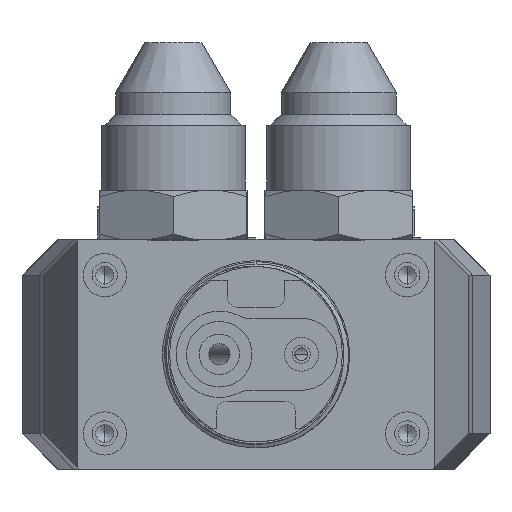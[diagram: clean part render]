
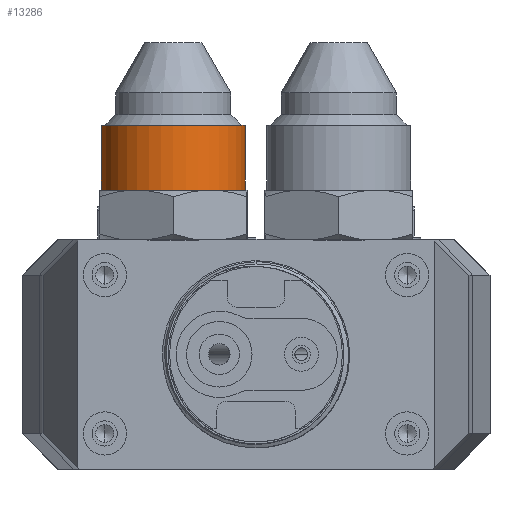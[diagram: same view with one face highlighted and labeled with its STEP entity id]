
A CAD part, front view. The second image highlights one B-rep face of the part: STEP entity #13286.
In plain terms, the highlighted cylindrical face has radius 10 mm (diameter 20 mm), a partial arc.
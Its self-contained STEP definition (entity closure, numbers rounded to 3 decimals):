
#664 = ORIENTED_EDGE ( 'NONE', *, *, #29157, .F. ) ;
#4391 = CARTESIAN_POINT ( 'NONE',  ( -68.019, -126.235, 1021.303 ) ) ;
#4725 = CARTESIAN_POINT ( 'NONE',  ( -68.019, -126.235, 1030.303 ) ) ;
#6978 = AXIS2_PLACEMENT_3D ( 'NONE', #14234, #43159, #32830 ) ;
#7019 = VERTEX_POINT ( 'NONE', #4725 ) ;
#9444 = ORIENTED_EDGE ( 'NONE', *, *, #38469, .T. ) ;
#9517 = CARTESIAN_POINT ( 'NONE',  ( -68.019, -126.235, 1052.575 ) ) ;
#10414 = DIRECTION ( 'NONE',  ( 0., 0., 1. ) ) ;
#12812 = ORIENTED_EDGE ( 'NONE', *, *, #30952, .T. ) ;
#13286 = ADVANCED_FACE ( 'NONE', ( #29681 ), #52866, .T. ) ;
#14234 = CARTESIAN_POINT ( 'NONE',  ( -58.019, -126.235, 1052.575 ) ) ;
#14649 = VERTEX_POINT ( 'NONE', #21840 ) ;
#15387 = AXIS2_PLACEMENT_3D ( 'NONE', #29210, #38994, #20393 ) ;
#15587 = VECTOR ( 'NONE', #10414, 1000. ) ;
#20393 = DIRECTION ( 'NONE',  ( 1., 0., 0. ) ) ;
#21840 = CARTESIAN_POINT ( 'NONE',  ( -48.019, -126.235, 1021.303 ) ) ;
#24142 = CIRCLE ( 'NONE', #15387, 10. ) ;
#28293 = CIRCLE ( 'NONE', #46821, 10. ) ;
#29157 = EDGE_CURVE ( 'NONE', #41080, #7019, #41830, .T. ) ;
#29210 = CARTESIAN_POINT ( 'NONE',  ( -58.019, -126.235, 1030.303 ) ) ;
#29273 = EDGE_LOOP ( 'NONE', ( #664, #38215, #12812, #9444 ) ) ;
#29681 = FACE_OUTER_BOUND ( 'NONE', #29273, .T. ) ;
#30747 = LINE ( 'NONE', #34709, #41736 ) ;
#30952 = EDGE_CURVE ( 'NONE', #14649, #59185, #30747, .T. ) ;
#32830 = DIRECTION ( 'NONE',  ( 1., 0., 0. ) ) ;
#34709 = CARTESIAN_POINT ( 'NONE',  ( -48.019, -126.235, 1052.575 ) ) ;
#38215 = ORIENTED_EDGE ( 'NONE', *, *, #58497, .T. ) ;
#38294 = CARTESIAN_POINT ( 'NONE',  ( -48.019, -126.235, 1030.303 ) ) ;
#38469 = EDGE_CURVE ( 'NONE', #59185, #7019, #24142, .T. ) ;
#38994 = DIRECTION ( 'NONE',  ( 0., 0., -1. ) ) ;
#41080 = VERTEX_POINT ( 'NONE', #4391 ) ;
#41736 = VECTOR ( 'NONE', #44196, 1000. ) ;
#41830 = LINE ( 'NONE', #9517, #15587 ) ;
#43159 = DIRECTION ( 'NONE',  ( 0., 0., 1. ) ) ;
#44196 = DIRECTION ( 'NONE',  ( 0., 0., 1. ) ) ;
#46441 = DIRECTION ( 'NONE',  ( 1., 0., 0. ) ) ;
#46821 = AXIS2_PLACEMENT_3D ( 'NONE', #51003, #51615, #46441 ) ;
#51003 = CARTESIAN_POINT ( 'NONE',  ( -58.019, -126.235, 1021.303 ) ) ;
#51615 = DIRECTION ( 'NONE',  ( 0., 0., 1. ) ) ;
#52866 = CYLINDRICAL_SURFACE ( 'NONE', #6978, 10. ) ;
#58497 = EDGE_CURVE ( 'NONE', #41080, #14649, #28293, .T. ) ;
#59185 = VERTEX_POINT ( 'NONE', #38294 ) ;
